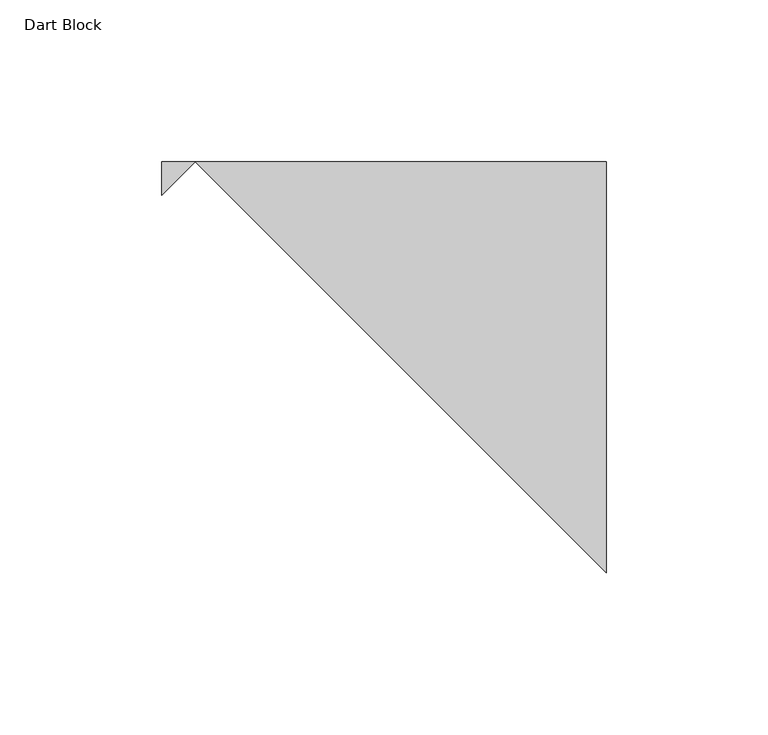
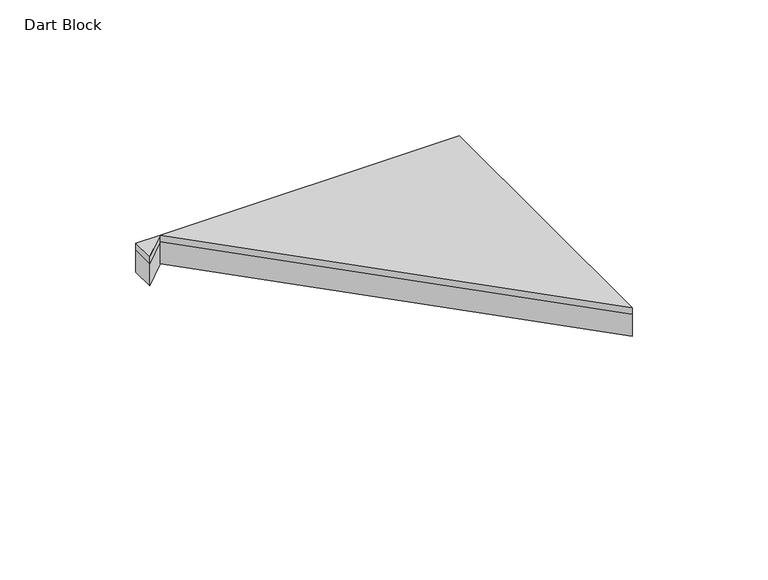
"""IFC4 building model written with IfcOpenShell, lengths in millimetres: proxy geometry, FilzFelt_Dart_Block : Dart Block."""

from ifc_helpers import new_model, si_unit, origin, place, context, project, spatial, faceted_brep, source, transform, mapped, element, save


def dart_block_6891ff0b(model_context):
    return source(origin(), model_context, "Body", "Brep", [
        faceted_brep([(127.0, -190.5, 10.0210937), (0.0, -63.5, 10.0210937), (127.0, -63.5, 10.0210937), (-10.2951413, -73.7951413, 10.0210937), (-10.2951413, -63.5, 10.0210937), (0.0, -63.5, 12.9976563), (127.0, -190.5, 12.9976563), (127.0, -63.5, 12.9976563), (-10.2951413, -73.7951413, 12.9976563), (-10.2951413, -63.5, 12.9976563)], [[[0, 1, 2]], [[1, 3, 4]], [[5, 6, 7]], [[8, 5, 9]], [[6, 0, 2, 7]], [[1, 0, 6, 5]], [[1, 5, 8, 3]], [[2, 1, 4, 9, 5, 7]], [[4, 3, 8, 9]]]),
        faceted_brep([(127.0, -190.5, 0.0), (0.0, -63.5, 0.0), (127.0, -63.5, 0.0), (-10.2951413, -73.7951413, 0.0), (-10.2951413, -63.5, 0.0), (0.0, -63.5, 10.0210937), (127.0, -190.5, 10.0210937), (127.0, -63.5, 10.0210937), (-10.2951413, -73.7951413, 10.0210937), (-10.2951413, -63.5, 10.0210937)], [[[0, 1, 2]], [[1, 3, 4]], [[5, 6, 7]], [[8, 5, 9]], [[1, 0, 6, 5]], [[1, 5, 8, 3]], [[6, 0, 2, 7]], [[2, 1, 4, 9, 5, 7]], [[4, 3, 8, 9]]]),
    ])


if __name__ == "__main__":
    model = new_model("IFC4")
    model_context = context("Model", 3, world=origin())
    ifc_project = project(units=[si_unit("LENGTHUNIT", "METRE", prefix="MILLI")], contexts=[model_context])
    site = spatial("IfcSite", under=ifc_project)
    building = spatial("IfcBuilding", under=site)
    placement = place(None, origin())
    dart_block_shape = dart_block_6891ff0b(model_context)
    element("IfcBuildingElementProxy", 1, Name="FilzFelt_Dart_Block : Dart Block", ObjectType="FilzFelt_Dart_Block : Dart Block", at=placement, inside=building, context=model_context, shape_type="MappedRepresentation", body=[
        mapped(dart_block_shape, transform((0.0, 0.0, 0.0), x_axis=(1.0, 0.0, 0.0), y_axis=(0.0, 1.0, 0.0), z_axis=(0.0, 0.0, 1.0))),
    ])
    save(model, "model.ifc")
